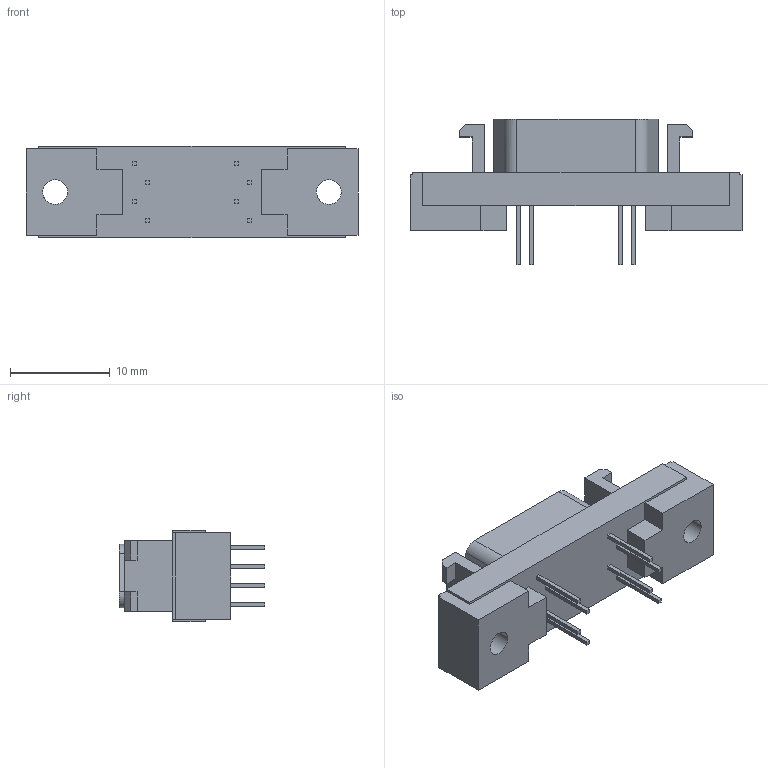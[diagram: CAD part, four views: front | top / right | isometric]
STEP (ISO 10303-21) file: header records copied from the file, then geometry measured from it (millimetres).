
FILE_DESCRIPTION(/* description */ (''),/* implementation_level */ '2;1');
FILE_NAME(/* name */ '10220-6212vc',/* time_stamp */ '2006-07-28T09:10:31-05:00',/* author */ (''),/* organization */ (''),/* preprocessor_version */ 'ST-DEVELOPER v9',/* originating_system */ 'UGS - NX 3.0',/* authorisation */ '');
FILE_SCHEMA (('CONFIG_CONTROL_DESIGN'));
Length unit declared in the file: inch
Products named in the file (1): a0p72F284610
Bounding box: 33.27 x 14.58 x 9.14 mm (x, y, z)
Volume: 1762.3 mm3; surface area: 1823.6 mm2
Topology: 1 solids, 1 shells, 164 faces, 472 edges, 322 vertices
Faces by surface type: plane 154, cylinder 10
Entity records: 5876 total; most frequent: CARTESIAN_POINT 2391, ORIENTED_EDGE 944, EDGE_CURVE 472, B_SPLINE_CURVE_WITH_KNOTS 472, DIRECTION 330, VERTEX_POINT 322, EDGE_LOOP 180, AXIS2_PLACEMENT_3D 165
